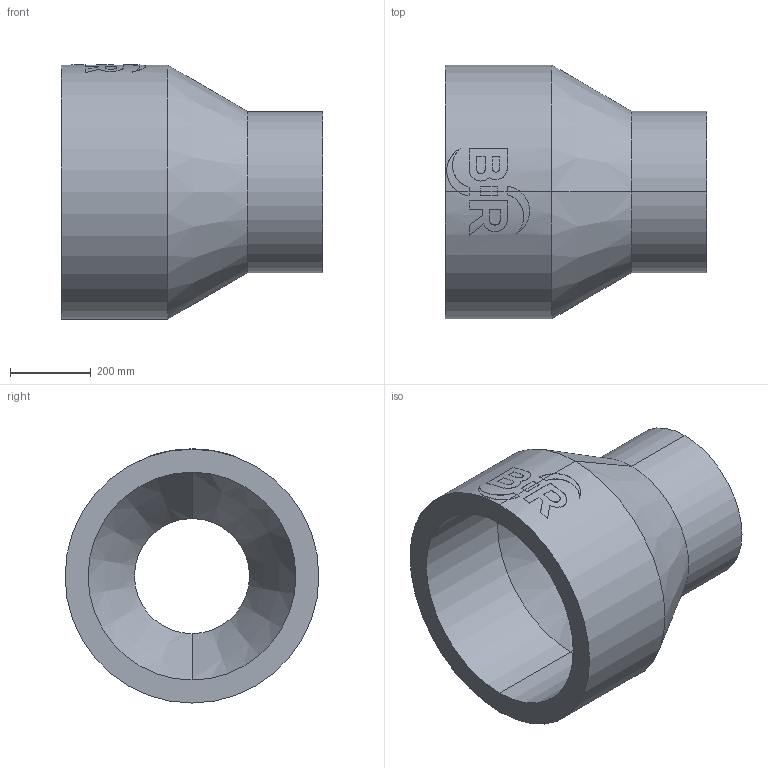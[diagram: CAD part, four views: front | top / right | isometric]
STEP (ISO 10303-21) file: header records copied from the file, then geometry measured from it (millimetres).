
FILE_DESCRIPTION (( 'STEP AP214' ), '1' );
FILE_NAME ('2323292515.STEP', '2018-07-20T12:05:04', ( '' ), ( '' ), 'SwSTEP 2.0', 'SolidWorks 2017', '' );
FILE_SCHEMA (( 'AUTOMOTIVE_DESIGN' ));
Length unit declared in the file: millimetre
Products named in the file (1): 2323292515
Bounding box: 650 x 630 x 630.46 mm (x, y, z)
Volume: 57322053.1 mm3; surface area: 2169399.8 mm2
Topology: 1 solids, 1 shells, 63 faces, 160 edges, 104 vertices
Faces by surface type: cylinder 31, plane 28, cone 4
Entity records: 3576 total; most frequent: CARTESIAN_POINT 1367, ORIENTED_EDGE 320, DIRECTION 296, EDGE_CURVE 160, AXIS2_PLACEMENT_3D 112, VERTEX_POINT 104, VECTOR 72, LINE 72
